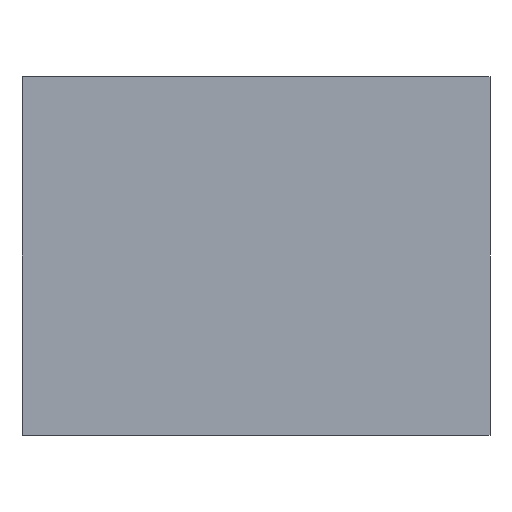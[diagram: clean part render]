
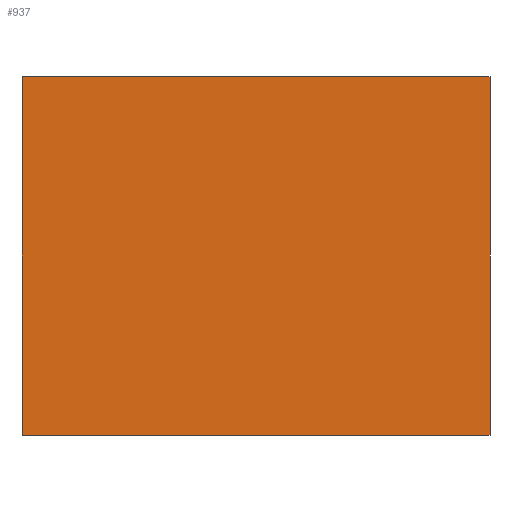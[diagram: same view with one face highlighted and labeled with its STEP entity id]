
A CAD part, front view. The second image highlights one B-rep face of the part: STEP entity #937.
In plain terms, the highlighted planar face has unit normal (0, -1, 0).
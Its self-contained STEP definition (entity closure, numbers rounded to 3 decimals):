
#26 = LINE ( 'NONE', #1555, #104 ) ;
#52 = VECTOR ( 'NONE', #1528, 1000. ) ;
#55 = LINE ( 'NONE', #1502, #52 ) ;
#104 = VECTOR ( 'NONE', #1529, 1000. ) ;
#235 = EDGE_CURVE ( 'NONE', #607, #859, #1063, .T. ) ;
#286 = VECTOR ( 'NONE', #962, 1000. ) ;
#308 = ORIENTED_EDGE ( 'NONE', *, *, #669, .F. ) ;
#409 = VERTEX_POINT ( 'NONE', #790 ) ;
#607 = VERTEX_POINT ( 'NONE', #1410 ) ;
#646 = EDGE_CURVE ( 'NONE', #409, #607, #55, .T. ) ;
#669 = EDGE_CURVE ( 'NONE', #2064, #409, #26, .T. ) ;
#692 = DIRECTION ( 'NONE',  ( 0., 0., 1. ) ) ;
#697 = ORIENTED_EDGE ( 'NONE', *, *, #235, .F. ) ;
#713 = DIRECTION ( 'NONE',  ( 0., 1., 0. ) ) ;
#775 = DIRECTION ( 'NONE',  ( -1., 0., 0. ) ) ;
#777 = LINE ( 'NONE', #971, #286 ) ;
#790 = CARTESIAN_POINT ( 'NONE',  ( 150., 0., 115. ) ) ;
#824 = EDGE_LOOP ( 'NONE', ( #2228, #308, #1130, #697 ) ) ;
#859 = VERTEX_POINT ( 'NONE', #2139 ) ;
#937 = ADVANCED_FACE ( 'NONE', ( #1009 ), #2240, .F. ) ;
#962 = DIRECTION ( 'NONE',  ( 0., 0., 1. ) ) ;
#971 = CARTESIAN_POINT ( 'NONE',  ( -150., 0., -115. ) ) ;
#1009 = FACE_OUTER_BOUND ( 'NONE', #824, .T. ) ;
#1063 = LINE ( 'NONE', #1294, #1089 ) ;
#1089 = VECTOR ( 'NONE', #775, 1000. ) ;
#1130 = ORIENTED_EDGE ( 'NONE', *, *, #1909, .F. ) ;
#1294 = CARTESIAN_POINT ( 'NONE',  ( -150., 0., -115. ) ) ;
#1364 = CARTESIAN_POINT ( 'NONE',  ( -150., 0., 115. ) ) ;
#1393 = AXIS2_PLACEMENT_3D ( 'NONE', #2269, #713, #692 ) ;
#1410 = CARTESIAN_POINT ( 'NONE',  ( 150., 0., -115. ) ) ;
#1502 = CARTESIAN_POINT ( 'NONE',  ( 150., 0., -115. ) ) ;
#1528 = DIRECTION ( 'NONE',  ( 0., 0., -1. ) ) ;
#1529 = DIRECTION ( 'NONE',  ( 1., 0., 0. ) ) ;
#1555 = CARTESIAN_POINT ( 'NONE',  ( -150., 0., 115. ) ) ;
#1909 = EDGE_CURVE ( 'NONE', #859, #2064, #777, .T. ) ;
#2064 = VERTEX_POINT ( 'NONE', #1364 ) ;
#2139 = CARTESIAN_POINT ( 'NONE',  ( -150., 0., -115. ) ) ;
#2228 = ORIENTED_EDGE ( 'NONE', *, *, #646, .F. ) ;
#2240 = PLANE ( 'NONE',  #1393 ) ;
#2269 = CARTESIAN_POINT ( 'NONE',  ( 0., 0., 0. ) ) ;
